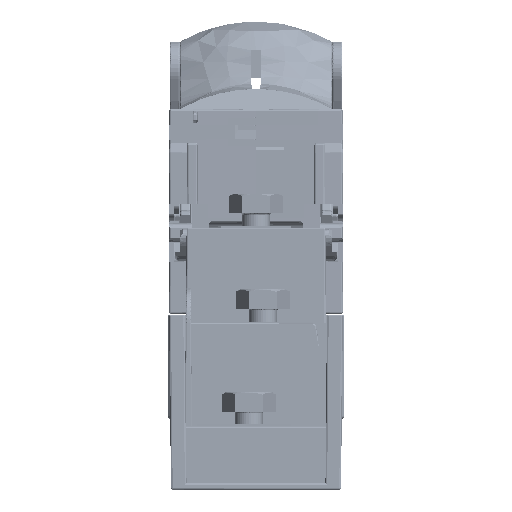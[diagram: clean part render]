
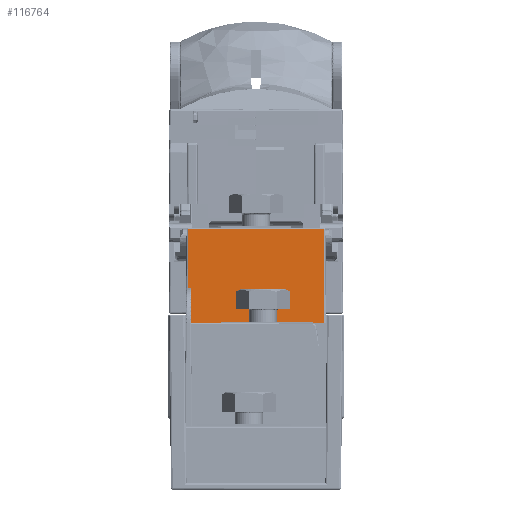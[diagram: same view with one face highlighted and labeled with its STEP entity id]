
A CAD part, left-side view. The second image highlights one B-rep face of the part: STEP entity #116764.
In plain terms, the highlighted planar face has unit normal (-1, 0, 0.009).
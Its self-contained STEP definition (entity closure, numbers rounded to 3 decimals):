
#17764 = B_SPLINE_CURVE_WITH_KNOTS ( 'NONE', 3,
 ( #218609, #218552, #218563, #218620 ),
 .UNSPECIFIED., .F., .F.,
 ( 4, 4 ),
 ( 0., 0.002 ),
 .UNSPECIFIED. ) ;
#17768 = B_SPLINE_CURVE_WITH_KNOTS ( 'NONE', 3,
 ( #218631, #218603, #218670, #218675 ),
 .UNSPECIFIED., .F., .F.,
 ( 4, 4 ),
 ( 0., 1. ),
 .UNSPECIFIED. ) ;
#103141 = CARTESIAN_POINT ( 'NONE',  ( -121.249, -0.408, 26.5 ) ) ;
#103174 = CARTESIAN_POINT ( 'NONE',  ( -121.25, -2., 26.363 ) ) ;
#103205 = CARTESIAN_POINT ( 'NONE',  ( -121.249, -3.592, 26.5 ) ) ;
#113870 = CARTESIAN_POINT ( 'NONE',  ( -121.003, 19.089, 54.703 ) ) ;
#116764 = ADVANCED_FACE ( 'NONE', ( #148599 ), #148606, .T. ) ;
#122375 = EDGE_CURVE ( 'NONE', #402710, #402697, #437207, .T. ) ;
#122431 = EDGE_CURVE ( 'NONE', #402692, #489217, #437850, .T. ) ;
#122443 = EDGE_CURVE ( 'NONE', #489217, #402732, #437984, .T. ) ;
#122462 = EDGE_CURVE ( 'NONE', #402725, #297767, #438255, .T. ) ;
#122492 = EDGE_CURVE ( 'NONE', #402732, #402738, #438561, .T. ) ;
#122511 = EDGE_CURVE ( 'NONE', #402762, #402725, #438882, .T. ) ;
#126906 = AXIS2_PLACEMENT_3D ( 'NONE', #148700, #148703, #148706 ) ;
#148599 = FACE_OUTER_BOUND ( 'NONE', #359219, .T. ) ;
#148606 = PLANE ( 'NONE',  #126906 ) ;
#148700 = CARTESIAN_POINT ( 'NONE',  ( -121., 19.8, 55. ) ) ;
#148703 = DIRECTION ( 'NONE',  ( -1., 0., 0.009 ) ) ;
#148706 = DIRECTION ( 'NONE',  ( 0.009, 0., 1. ) ) ;
#214844 = EDGE_CURVE ( 'NONE', #297991, #402697, #249515, .T. ) ;
#214961 = EDGE_CURVE ( 'NONE', #404197, #402692, #251917, .T. ) ;
#214994 = EDGE_CURVE ( 'NONE', #402710, #404197, #252556, .T. ) ;
#215150 = EDGE_CURVE ( 'NONE', #404358, #402738, #391395, .T. ) ;
#215157 = EDGE_CURVE ( 'NONE', #404361, #404358, #400410, .T. ) ;
#215164 = EDGE_CURVE ( 'NONE', #404361, #402762, #400329, .T. ) ;
#218552 = CARTESIAN_POINT ( 'NONE',  ( -121.25, -2.535, 26.363 ) ) ;
#218563 = CARTESIAN_POINT ( 'NONE',  ( -121.249, -3.065, 26.411 ) ) ;
#218603 = CARTESIAN_POINT ( 'NONE',  ( -121.25, -0.951, 26.409 ) ) ;
#218609 = CARTESIAN_POINT ( 'NONE',  ( -121.25, -2., 26.363 ) ) ;
#218620 = CARTESIAN_POINT ( 'NONE',  ( -121.249, -3.592, 26.5 ) ) ;
#218631 = CARTESIAN_POINT ( 'NONE',  ( -121.249, -0.408, 26.5 ) ) ;
#218670 = CARTESIAN_POINT ( 'NONE',  ( -121.25, -1.481, 26.363 ) ) ;
#218675 = CARTESIAN_POINT ( 'NONE',  ( -121.25, -2., 26.363 ) ) ;
#241086 = EDGE_CURVE ( 'NONE', #297834, #297991, #17764, .T. ) ;
#241092 = EDGE_CURVE ( 'NONE', #297767, #297834, #17768, .T. ) ;
#249515 = LINE ( 'NONE', #249520, #455701 ) ;
#249520 = CARTESIAN_POINT ( 'NONE',  ( -121.249, 19.8, 26.5 ) ) ;
#249523 = DIRECTION ( 'NONE',  ( 0., -1., 0. ) ) ;
#251917 = LINE ( 'NONE', #251923, #456135 ) ;
#251923 = CARTESIAN_POINT ( 'NONE',  ( -121.236, -19.322, 28. ) ) ;
#251927 = DIRECTION ( 'NONE',  ( 0.009, 0.009, 1. ) ) ;
#252556 = LINE ( 'NONE', #252560, #456272 ) ;
#252560 = CARTESIAN_POINT ( 'NONE',  ( -121.236, 19.8, 28. ) ) ;
#252564 = DIRECTION ( 'NONE',  ( 0., -1., 0. ) ) ;
#254759 = VECTOR ( 'NONE', #437237, 1000. ) ;
#254873 = VECTOR ( 'NONE', #438002, 1000. ) ;
#254883 = VECTOR ( 'NONE', #437870, 1000. ) ;
#254930 = VECTOR ( 'NONE', #438275, 1000. ) ;
#254953 = VECTOR ( 'NONE', #438700, 1000. ) ;
#254997 = VECTOR ( 'NONE', #438902, 1000. ) ;
#297767 = VERTEX_POINT ( 'NONE', #103141 ) ;
#297834 = VERTEX_POINT ( 'NONE', #103174 ) ;
#297991 = VERTEX_POINT ( 'NONE', #103205 ) ;
#319900 = CARTESIAN_POINT ( 'NONE',  ( -121.003, -19.089, 54.703 ) ) ;
#319906 = CARTESIAN_POINT ( 'NONE',  ( -121.249, -8.4, 26.5 ) ) ;
#319920 = CARTESIAN_POINT ( 'NONE',  ( -121.236, -8.413, 28. ) ) ;
#319934 = CARTESIAN_POINT ( 'NONE',  ( -121.249, 4.4, 26.5 ) ) ;
#319942 = CARTESIAN_POINT ( 'NONE',  ( -121.148, 19.235, 38. ) ) ;
#319948 = CARTESIAN_POINT ( 'NONE',  ( -121.148, 18.685, 38. ) ) ;
#319976 = CARTESIAN_POINT ( 'NONE',  ( -121.236, 4.413, 28. ) ) ;
#321538 = CARTESIAN_POINT ( 'NONE',  ( -121.236, -19.322, 28. ) ) ;
#321651 = CARTESIAN_POINT ( 'NONE',  ( -121.151, 18.385, 37.703 ) ) ;
#321654 = CARTESIAN_POINT ( 'NONE',  ( -121.236, 18.3, 28. ) ) ;
#359219 = EDGE_LOOP ( 'NONE', ( #370866, #370869, #370873, #370877, #370881, #370883, #370886, #370889, #370892, #370893, #370895, #370899, #370901, #370902 ) ) ;
#370866 = ORIENTED_EDGE ( 'NONE', *, *, #214994, .T. ) ;
#370869 = ORIENTED_EDGE ( 'NONE', *, *, #214961, .T. ) ;
#370873 = ORIENTED_EDGE ( 'NONE', *, *, #122431, .T. ) ;
#370877 = ORIENTED_EDGE ( 'NONE', *, *, #122443, .T. ) ;
#370881 = ORIENTED_EDGE ( 'NONE', *, *, #122492, .T. ) ;
#370883 = ORIENTED_EDGE ( 'NONE', *, *, #215150, .F. ) ;
#370886 = ORIENTED_EDGE ( 'NONE', *, *, #215157, .F. ) ;
#370889 = ORIENTED_EDGE ( 'NONE', *, *, #215164, .T. ) ;
#370892 = ORIENTED_EDGE ( 'NONE', *, *, #122511, .T. ) ;
#370893 = ORIENTED_EDGE ( 'NONE', *, *, #122462, .T. ) ;
#370895 = ORIENTED_EDGE ( 'NONE', *, *, #241092, .T. ) ;
#370899 = ORIENTED_EDGE ( 'NONE', *, *, #241086, .T. ) ;
#370901 = ORIENTED_EDGE ( 'NONE', *, *, #214844, .T. ) ;
#370902 = ORIENTED_EDGE ( 'NONE', *, *, #122375, .F. ) ;
#391395 =( BOUNDED_CURVE ( )  B_SPLINE_CURVE ( 3, ( #400294, #400290, #400304, #400307 ),
 .UNSPECIFIED., .F., .F. ) 
 B_SPLINE_CURVE_WITH_KNOTS ( ( 4, 4 ),
 ( 4.721, 6.283 ),
 .UNSPECIFIED. ) 
 CURVE ( )  GEOMETRIC_REPRESENTATION_ITEM ( )  RATIONAL_B_SPLINE_CURVE ( ( 1., 0.807, 0.807, 1. ) ) 
 REPRESENTATION_ITEM ( '' )  );
#394709 = VECTOR ( 'NONE', #400420, 1000. ) ;
#394744 = VECTOR ( 'NONE', #400508, 1000. ) ;
#400290 = CARTESIAN_POINT ( 'NONE',  ( -121.149, 18.386, 37.877 ) ) ;
#400294 = CARTESIAN_POINT ( 'NONE',  ( -121.151, 18.385, 37.703 ) ) ;
#400304 = CARTESIAN_POINT ( 'NONE',  ( -121.148, 18.51, 38. ) ) ;
#400307 = CARTESIAN_POINT ( 'NONE',  ( -121.148, 18.685, 38. ) ) ;
#400329 = LINE ( 'NONE', #400504, #394744 ) ;
#400410 = LINE ( 'NONE', #400415, #394709 ) ;
#400415 = CARTESIAN_POINT ( 'NONE',  ( -121.236, 18.3, 28. ) ) ;
#400420 = DIRECTION ( 'NONE',  ( 0.009, 0.009, 1. ) ) ;
#400504 = CARTESIAN_POINT ( 'NONE',  ( -121.236, 19.8, 28. ) ) ;
#400508 = DIRECTION ( 'NONE',  ( 0., -1., 0. ) ) ;
#402692 = VERTEX_POINT ( 'NONE', #319900 ) ;
#402697 = VERTEX_POINT ( 'NONE', #319906 ) ;
#402710 = VERTEX_POINT ( 'NONE', #319920 ) ;
#402725 = VERTEX_POINT ( 'NONE', #319934 ) ;
#402732 = VERTEX_POINT ( 'NONE', #319942 ) ;
#402738 = VERTEX_POINT ( 'NONE', #319948 ) ;
#402762 = VERTEX_POINT ( 'NONE', #319976 ) ;
#404197 = VERTEX_POINT ( 'NONE', #321538 ) ;
#404358 = VERTEX_POINT ( 'NONE', #321651 ) ;
#404361 = VERTEX_POINT ( 'NONE', #321654 ) ;
#437113 = CARTESIAN_POINT ( 'NONE',  ( -121.236, -8.413, 28. ) ) ;
#437207 = LINE ( 'NONE', #437113, #254759 ) ;
#437237 = DIRECTION ( 'NONE',  ( -0.009, 0.009, -1. ) ) ;
#437850 = LINE ( 'NONE', #437864, #254883 ) ;
#437864 = CARTESIAN_POINT ( 'NONE',  ( -121.003, 19.8, 54.703 ) ) ;
#437870 = DIRECTION ( 'NONE',  ( 0., 1., 0. ) ) ;
#437984 = LINE ( 'NONE', #437996, #254873 ) ;
#437996 = CARTESIAN_POINT ( 'NONE',  ( -121.003, 19.089, 54.703 ) ) ;
#438002 = DIRECTION ( 'NONE',  ( -0.009, 0.009, -1. ) ) ;
#438255 = LINE ( 'NONE', #438269, #254930 ) ;
#438269 = CARTESIAN_POINT ( 'NONE',  ( -121.249, 19.8, 26.5 ) ) ;
#438275 = DIRECTION ( 'NONE',  ( 0., -1., 0. ) ) ;
#438561 = LINE ( 'NONE', #438695, #254953 ) ;
#438695 = CARTESIAN_POINT ( 'NONE',  ( -121.148, 19.8, 38. ) ) ;
#438700 = DIRECTION ( 'NONE',  ( 0., -1., 0. ) ) ;
#438882 = LINE ( 'NONE', #438896, #254997 ) ;
#438896 = CARTESIAN_POINT ( 'NONE',  ( -121.236, 4.413, 28. ) ) ;
#438902 = DIRECTION ( 'NONE',  ( -0.009, -0.009, -1. ) ) ;
#455701 = VECTOR ( 'NONE', #249523, 1000. ) ;
#456135 = VECTOR ( 'NONE', #251927, 1000. ) ;
#456272 = VECTOR ( 'NONE', #252564, 1000. ) ;
#489217 = VERTEX_POINT ( 'NONE', #113870 ) ;
